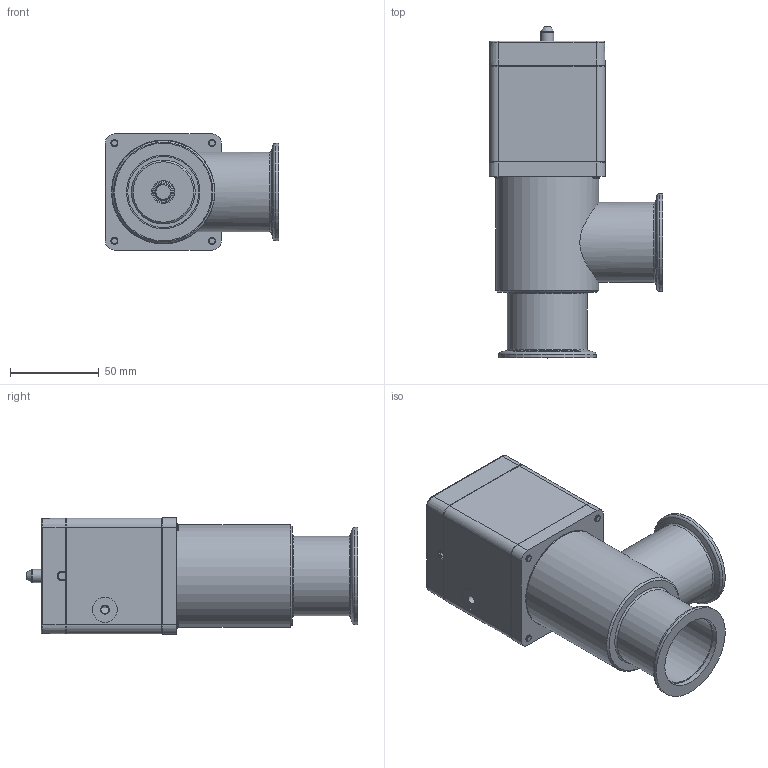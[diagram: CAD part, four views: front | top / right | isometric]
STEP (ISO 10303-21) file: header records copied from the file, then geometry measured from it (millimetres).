
FILE_DESCRIPTION(/* description */ (''),/* implementation_level */ '2;1');
FILE_NAME(/* name */ '1271140486_203.stp',/* time_stamp */ '2019-04-04T11:45:11+02:00',/* author */ (''),/* organization */ (''),/* preprocessor_version */ 'ST-DEVELOPER v16',/* originating_system */ 'SIEMENS PLM Software NX 11.0',/* authorisation */ '');
FILE_SCHEMA (('AP203_CONFIGURATION_CONTROLLED_3D_DESIGN_OF_MECHANICAL_PARTS_AND_ASSEMBLIES_MIM_LF { 1 0 10303 403 2 1 2}'));
Length unit declared in the file: millimetre
Products named in the file (11): 233232; 236204_1.1; 240513.1; 240512.10; 240511.9; 243875.2; 239737.6; 240792.1; 239984.1; 240510.14; 333665
Assembly tree (14 placements, depth 3):
  333665
    240792.1  x4
    239737.6
    240510.14
      240511.9
      240512.10
      240513.1
    243875.2
    239984.1
      236204_1.1  x2
      233232
Bounding box: 97.7 x 186.79 x 65.4 mm (x, y, z)
Volume: 224668.2 mm3; surface area: 127004.3 mm2
Topology: 20 solids, 20 shells, 567 faces, 1394 edges, 908 vertices
Faces by surface type: plane 335, cylinder 126, cone 71, bspline 19, torus 16
Full cylindrical faces by diameter (mm): 2.5 x3, 2.95 x1, 3 x7, 3.26 x4, 3.3 x8, 4 x8, 4.5 x5, 4.6 x1, 4.7 x3, 5 x1, 5.6 x2, 7 x4, 7.4 x1, 8 x7, 9.1 x1, 10 x1, 11.975 x3, 12.012 x1, 12.013 x1, 13.85 x1, 14 x1, 16.555 x1, 36 x1, 40 x3, 41.3 x2, 45 x2, 54 x1, 54.9 x2, 57.9 x1, 58.3 x1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
Entity records: 16503 total; most frequent: CARTESIAN_POINT 3454, DIRECTION 2337, ORIENTED_EDGE 2172, EDGE_CURVE 1086, AXIS2_PLACEMENT_3D 818, VERTEX_POINT 786, EDGE_LOOP 703, LINE 701
